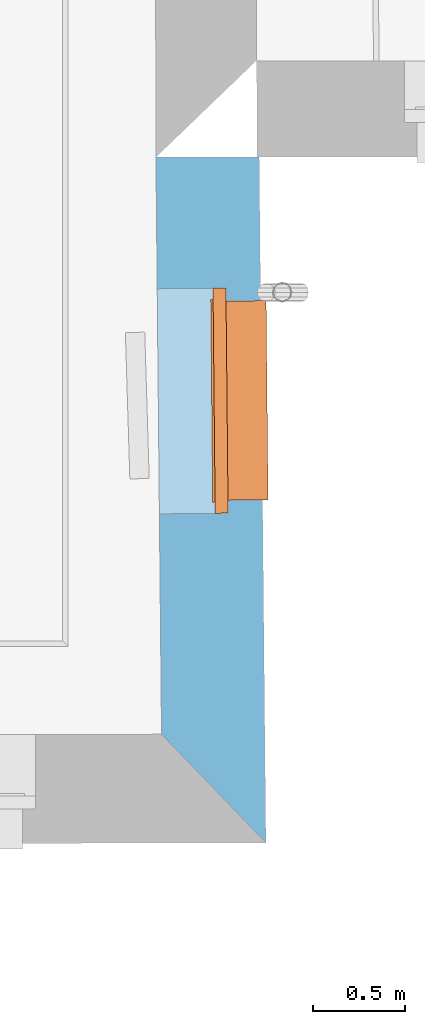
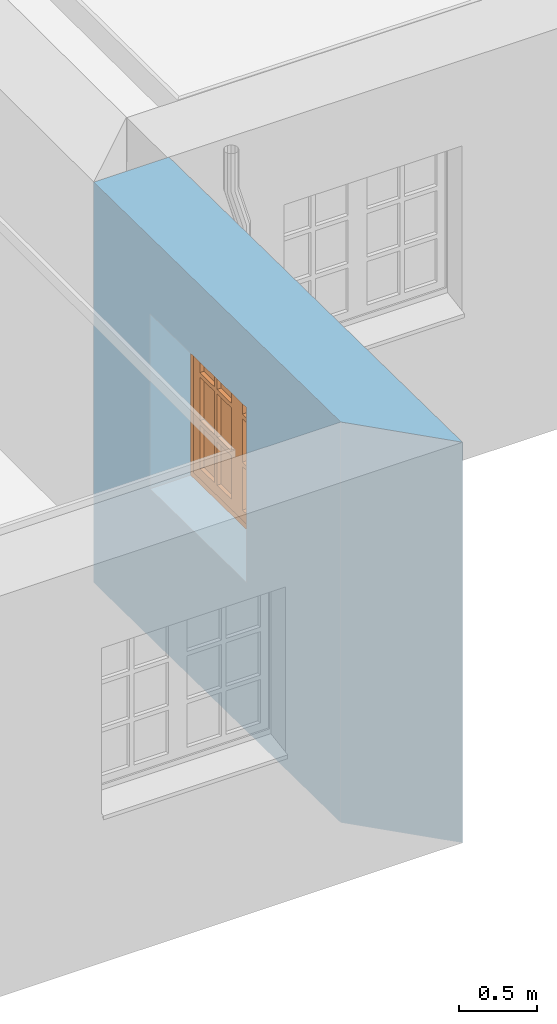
# One storey, part 71 of 196: 1 proxy, 1 opening, plus 1 element that does not belong to this part.
"""IFC2X3 building model written with IfcOpenShell, lengths in metres."""

from ifc_helpers import new_model, entity, si_unit, converted_unit, derived_unit, money_unit, direction, frame, origin_with_axes, origin_2d_with_axis, place, context, subcontext, project, spatial, polyline, rectangle, outline, extrude, open_shell, faceted_brep, surface_model, material, layer, layer_set, layer_usage, type_object, element, fill, save


model = new_model("IFC2X3")

# Units and contexts
model_context = context("Model", 3, precision=1e-05, world=origin_with_axes(), true_north=direction((0.0, 1.0)))
body_context = subcontext(model_context, "Body", "Model", "MODEL_VIEW")
ifc_project = project(units=[si_unit("LENGTHUNIT", "METRE"), si_unit("AREAUNIT", "SQUARE_METRE"), si_unit("VOLUMEUNIT", "CUBIC_METRE"), converted_unit("PLANEANGLEUNIT", "DEGREE", entity("IfcPlaneAngleMeasure", 0.0174532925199), si_unit("PLANEANGLEUNIT", "RADIAN"), dimensions=[0, 0, 0, 0, 0, 0, 0]), money_unit("EUR"), converted_unit("TIMEUNIT", "Year", entity("IfcTimeMeasure", 31556926.0), si_unit("TIMEUNIT", "SECOND"), dimensions=[0, 0, 1, 0, 0, 0, 0]), si_unit("MASSUNIT", "GRAM", prefix="KILO"), si_unit("THERMODYNAMICTEMPERATUREUNIT", "DEGREE_CELSIUS"), si_unit("LUMINOUSINTENSITYUNIT", "LUMEN"), si_unit("ENERGYUNIT", "JOULE", prefix="MEGA"), derived_unit("THERMALCONDUCTANCEUNIT", [(si_unit("POWERUNIT", "WATT"), 1), (si_unit("LENGTHUNIT", "METRE"), -1), (si_unit("THERMODYNAMICTEMPERATUREUNIT", "KELVIN"), -1)]), derived_unit("SPECIFICHEATCAPACITYUNIT", [(si_unit("ENERGYUNIT", "JOULE"), 1), (si_unit("MASSUNIT", "GRAM", prefix="KILO"), -1), (si_unit("THERMODYNAMICTEMPERATUREUNIT", "KELVIN"), -1)]), derived_unit("MASSDENSITYUNIT", [(si_unit("MASSUNIT", "GRAM", prefix="KILO"), 1), (si_unit("VOLUMEUNIT", "CUBIC_METRE"), -1)])], contexts=[model_context])

# Site, building, storey
site_placement = place(None, origin_with_axes())
site = spatial("IfcSite", under=ifc_project, at=site_placement, Name="Gelände", CompositionType="ELEMENT")
building_placement = place(site_placement, origin_with_axes())
building = spatial("IfcBuilding", under=site, at=building_placement, Name="Gebäude", CompositionType="ELEMENT")
storey_placement = place(building_placement, frame((0.0, 0.0, -3.0), z_axis=(0.0, 0.0, 1.0), x_axis=(1.0, 0.0, 0.0)))
storey = spatial("IfcBuildingStorey", under=building, at=storey_placement, Name="KELLERGESCHOSS", CompositionType="ELEMENT", Elevation=-3.0)

# Wall, opening, proxy
ifc_material = material(Name="05_ALLGEMEIN - TRAGENDE BAUTEILE")
ifc_layer = layer(ifc_material, 0.56, ventilated="UNKNOWN")
ifc_layer_set = layer_set([ifc_layer], Name="05_ALLGEMEIN - TRAGENDE BAUTEILE 0.56")
ifc_layer_usage = layer_usage(ifc_layer_set, "AXIS2", "NEGATIVE", 0.56)
wall_type = type_object("IfcWallType", Name="05_ALLGEMEIN - TRAGENDE BAUTEILE 560", PredefinedType="ELEMENTEDWALL")
wall_placement = place(storey_placement, frame((-17.6997063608, 6.22219965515, -0.36), z_axis=(0.0, 0.0, 1.0), x_axis=(-0.00971979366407, 0.99995276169, 0.0)))
wall = element("IfcWallStandardCase", 1, at=wall_placement, inside=storey, type_object=wall_type, material=ifc_layer_usage, Name="Wand-029", ObjectType="ELEMENTEDWALL", context=body_context, shape_type="SweptSolid", body=[
    extrude(outline(polyline([(0.0, 0.0), (3.71695293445, 0.0), (3.72235412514, 0.56), (0.59426893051, 0.56), (0.0, 0.0)])), origin_with_axes(), (0.0, 0.0, 1.0), 3.15),
])
opening_placement = place(wall_placement, frame((2.3988384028, 0.0, 1.16872266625), z_axis=(0.0, 0.0, 1.0), x_axis=(1.0, 0.0, 0.0)))
opening = element("IfcOpeningElement", 2, at=opening_placement, cuts=wall, Name="Fenster-014", context=body_context, shape_type="SweptSolid", body=[
    extrude(rectangle(XDim=1.22, YDim=1.37626033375, at=origin_2d_with_axis()), frame((0.0, 0.187384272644, 0.688130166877), z_axis=(0.0, -1.0, 0.0), x_axis=(1.0, 0.0, 0.0)), (0.0, 0.0, -1.0), 0.932615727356),
    extrude(rectangle(XDim=1.08, YDim=1.30626033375, at=origin_2d_with_axis()), frame((0.0, 0.187384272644, 0.653130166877), z_axis=(0.0, 1.0, 0.0), x_axis=(1.0, 0.0, 0.0)), (0.0, 0.0, -1.0), 0.747384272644),
])
building_element_proxy_type = type_object("IfcBuildingElementProxyType", Name="2-Flügelfenster 25", PredefinedType="NOTDEFINED")
proxy_placement = place(opening_placement, frame((-0.61, 0.0, 0.0), z_axis=(0.0, 0.0, 1.0), x_axis=(1.0, 0.0, 0.0)))
proxy = element("IfcBuildingElementProxy", 3, at=proxy_placement, inside=storey, type_object=building_element_proxy_type, Name="Fenster-014", context=body_context, shape_type="SurfaceModel", body=[
    surface_model("IfcShellBasedSurfaceModel", [(0.07, 0.186384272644, 0.05), (0.07, 0.186384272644, 0.04), (1.15, 0.186384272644, 0.04), (1.15, 0.186384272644, 0.05), (0.07, -0.03, 0.00519703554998), (1.15, -0.03, 0.00519703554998), (0.07, -0.03, -0.02480296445), (1.15, -0.03, -0.02480296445), (0.07, -0.015, -0.00980296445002), (1.15, -0.015, -0.00980296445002)], [open_shell([[[0, 1, 2, 3]], [[1, 4, 5, 2]], [[4, 6, 7, 5]], [[6, 8, 9, 7]]])]),
    faceted_brep([(0.07, 0.187384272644, 0.0389871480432), (0.07, 0.0, 0.00884850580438), (1.15, 0.0, 0.00884850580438), (1.15, 0.187384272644, 0.0389871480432), (0.07, 0.187384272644, 0.0), (0.07, 0.0, 0.0), (1.15, 0.0, 0.0), (1.15, 0.187384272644, 0.0)], [[[0, 1, 2, 3]], [[0, 4, 5, 1]], [[1, 5, 6, 2]], [[3, 2, 6, 7]], [[4, 0, 3, 7]], [[5, 4, 7, 6]]]),
    faceted_brep([(0.0, 0.187384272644, 0.0), (0.0, 0.257384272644, 0.0), (0.08, 0.257384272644, 0.08), (0.08, 0.187384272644, 0.08), (0.0, 0.187384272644, 1.37626033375), (0.0, 0.257384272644, 1.37626033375), (0.08, 0.257384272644, 1.29626033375), (0.08, 0.187384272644, 1.29626033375)], [[[0, 1, 2, 3]], [[4, 5, 1, 0]], [[1, 5, 6, 2]], [[3, 2, 6, 7]], [[0, 3, 7, 4]], [[7, 6, 5, 4]]]),
    faceted_brep([(1.22, 0.187384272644, 0.0), (1.22, 0.257384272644, 0.0), (1.22, 0.257384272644, 1.37626033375), (1.22, 0.187384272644, 1.37626033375), (1.14, 0.187384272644, 0.08), (1.14, 0.257384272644, 0.08), (1.14, 0.257384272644, 1.29626033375), (1.14, 0.187384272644, 1.29626033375)], [[[0, 1, 2, 3]], [[4, 5, 1, 0]], [[1, 5, 6, 2]], [[3, 2, 6, 7]], [[0, 3, 7, 4]], [[7, 6, 5, 4]]]),
    faceted_brep([(0.0, 0.187384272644, 0.0), (0.0, 0.257384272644, 0.0), (1.22, 0.257384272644, 0.0), (1.22, 0.187384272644, 0.0), (0.08, 0.187384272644, 0.08), (0.08, 0.257384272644, 0.08), (0.61, 0.257384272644, 0.08), (1.14, 0.257384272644, 0.08), (1.14, 0.187384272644, 0.08), (0.61, 0.187384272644, 0.08)], [[[0, 1, 2, 3]], [[4, 5, 1, 0]], [[1, 5, 6, 7, 2]], [[3, 2, 7, 8]], [[0, 3, 8, 9, 4]], [[9, 6, 5, 4]], [[8, 7, 6, 9]]]),
    faceted_brep([(0.0, 0.187384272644, 1.37626033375), (0.0, 0.257384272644, 1.37626033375), (0.08, 0.257384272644, 1.29626033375), (0.08, 0.187384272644, 1.29626033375), (1.22, 0.187384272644, 1.37626033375), (1.22, 0.257384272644, 1.37626033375), (1.14, 0.257384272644, 1.29626033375), (0.61, 0.257384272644, 1.29626033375), (0.61, 0.187384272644, 1.29626033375), (1.14, 0.187384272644, 1.29626033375)], [[[0, 1, 2, 3]], [[4, 5, 1, 0]], [[1, 5, 6, 7, 2]], [[3, 2, 7, 8]], [[0, 3, 8, 9, 4]], [[9, 6, 5, 4]], [[8, 7, 6, 9]]]),
    faceted_brep([(0.06, 0.257384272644, 0.06), (0.06, 0.270384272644, 0.06), (0.14, 0.270384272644, 0.14), (0.14, 0.257384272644, 0.14), (0.06, 0.257384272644, 1.31626033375), (0.06, 0.270384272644, 1.31626033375), (0.14, 0.270384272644, 1.23626033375), (0.14, 0.257384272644, 1.23626033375)], [[[0, 1, 2, 3]], [[4, 5, 1, 0]], [[1, 5, 6, 2]], [[3, 2, 6, 7]], [[0, 3, 7, 4]], [[7, 6, 5, 4]]]),
    faceted_brep([(0.6, 0.257384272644, 0.06), (0.6, 0.270384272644, 0.06), (0.6, 0.270384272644, 1.31626033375), (0.6, 0.257384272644, 1.31626033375), (0.54, 0.257384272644, 0.14), (0.54, 0.270384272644, 0.14), (0.54, 0.270384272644, 1.23626033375), (0.54, 0.257384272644, 1.23626033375)], [[[0, 1, 2, 3]], [[4, 5, 1, 0]], [[1, 5, 6, 2]], [[3, 2, 6, 7]], [[0, 3, 7, 4]], [[7, 6, 5, 4]]]),
    faceted_brep([(0.06, 0.257384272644, 0.06), (0.06, 0.270384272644, 0.06), (0.6, 0.270384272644, 0.06), (0.6, 0.257384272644, 0.06), (0.14, 0.257384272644, 0.14), (0.14, 0.270384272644, 0.14), (0.54, 0.270384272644, 0.14), (0.54, 0.257384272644, 0.14)], [[[0, 1, 2, 3]], [[4, 5, 1, 0]], [[1, 5, 6, 2]], [[3, 2, 6, 7]], [[0, 3, 7, 4]], [[7, 6, 5, 4]]]),
    faceted_brep([(0.06, 0.257384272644, 1.31626033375), (0.06, 0.270384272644, 1.31626033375), (0.14, 0.270384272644, 1.23626033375), (0.14, 0.257384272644, 1.23626033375), (0.6, 0.257384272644, 1.31626033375), (0.6, 0.270384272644, 1.31626033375), (0.54, 0.270384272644, 1.23626033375), (0.54, 0.257384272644, 1.23626033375)], [[[0, 1, 2, 3]], [[4, 5, 1, 0]], [[1, 5, 6, 2]], [[3, 2, 6, 7]], [[0, 3, 7, 4]], [[7, 6, 5, 4]]]),
    faceted_brep([(0.08, 0.200384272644, 0.08), (0.08, 0.257384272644, 0.08), (0.14, 0.257384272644, 0.14), (0.14, 0.200384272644, 0.14), (0.08, 0.200384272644, 1.29626033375), (0.08, 0.257384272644, 1.29626033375), (0.14, 0.257384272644, 1.23626033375), (0.14, 0.200384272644, 1.23626033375)], [[[0, 1, 2, 3]], [[4, 5, 1, 0]], [[1, 5, 6, 2]], [[3, 2, 6, 7]], [[0, 3, 7, 4]], [[7, 6, 5, 4]]]),
    faceted_brep([(0.62, 0.200384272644, 0.08), (0.62, 0.257384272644, 0.08), (0.62, 0.257384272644, 1.29626033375), (0.62, 0.200384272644, 1.29626033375), (0.54, 0.200384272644, 0.14), (0.54, 0.257384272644, 0.14), (0.54, 0.257384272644, 1.23626033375), (0.54, 0.200384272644, 1.23626033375)], [[[0, 1, 2, 3]], [[4, 5, 1, 0]], [[1, 5, 6, 2]], [[3, 2, 6, 7]], [[0, 3, 7, 4]], [[7, 6, 5, 4]]]),
    faceted_brep([(0.08, 0.200384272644, 0.08), (0.08, 0.257384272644, 0.08), (0.62, 0.257384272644, 0.08), (0.62, 0.200384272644, 0.08), (0.14, 0.200384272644, 0.14), (0.14, 0.257384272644, 0.14), (0.54, 0.257384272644, 0.14), (0.54, 0.200384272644, 0.14)], [[[0, 1, 2, 3]], [[4, 5, 1, 0]], [[1, 5, 6, 2]], [[3, 2, 6, 7]], [[0, 3, 7, 4]], [[7, 6, 5, 4]]]),
    faceted_brep([(0.08, 0.200384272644, 1.29626033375), (0.08, 0.257384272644, 1.29626033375), (0.14, 0.257384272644, 1.23626033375), (0.14, 0.200384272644, 1.23626033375), (0.62, 0.200384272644, 1.29626033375), (0.62, 0.257384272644, 1.29626033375), (0.54, 0.257384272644, 1.23626033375), (0.54, 0.200384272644, 1.23626033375)], [[[0, 1, 2, 3]], [[4, 5, 1, 0]], [[1, 5, 6, 2]], [[3, 2, 6, 7]], [[0, 3, 7, 4]], [[7, 6, 5, 4]]]),
    faceted_brep([(0.3225, 0.200384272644, 0.14), (0.3225, 0.235384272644, 0.14), (0.3575, 0.235384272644, 0.14), (0.3575, 0.200384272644, 0.14), (0.3225, 0.200384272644, 1.23626033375), (0.3225, 0.235384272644, 1.23626033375), (0.3575, 0.235384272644, 1.23626033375), (0.3575, 0.200384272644, 1.23626033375)], [[[0, 1, 2, 3]], [[4, 5, 1, 0]], [[1, 5, 6, 2]], [[3, 2, 6, 7]], [[0, 3, 7, 4]], [[7, 6, 5, 4]]]),
    faceted_brep([(0.3225, 0.235384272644, 0.14), (0.3225, 0.270384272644, 0.14), (0.3575, 0.270384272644, 0.14), (0.3575, 0.235384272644, 0.14), (0.3225, 0.235384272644, 1.23626033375), (0.3225, 0.270384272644, 1.23626033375), (0.3575, 0.270384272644, 1.23626033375), (0.3575, 0.235384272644, 1.23626033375)], [[[0, 1, 2, 3]], [[4, 5, 1, 0]], [[1, 5, 6, 2]], [[3, 2, 6, 7]], [[0, 3, 7, 4]], [[7, 6, 5, 4]]]),
    faceted_brep([(0.3225, 0.200384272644, 0.482086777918), (0.3225, 0.200384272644, 0.517086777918), (0.14, 0.200384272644, 0.517086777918), (0.14, 0.200384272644, 0.482086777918), (0.3225, 0.235384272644, 0.517086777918), (0.3225, 0.235384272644, 0.482086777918), (0.14, 0.235384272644, 0.517086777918), (0.14, 0.235384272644, 0.482086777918)], [[[0, 1, 2, 3]], [[4, 1, 0, 5]], [[1, 4, 6, 2]], [[6, 7, 3, 2]], [[5, 0, 3, 7]], [[4, 5, 7, 6]]]),
    faceted_brep([(0.3575, 0.235384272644, 0.517086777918), (0.3575, 0.200384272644, 0.517086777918), (0.54, 0.200384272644, 0.517086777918), (0.54, 0.235384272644, 0.517086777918), (0.3575, 0.200384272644, 0.482086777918), (0.3575, 0.235384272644, 0.482086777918), (0.54, 0.200384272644, 0.482086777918), (0.54, 0.235384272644, 0.482086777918)], [[[0, 1, 2, 3]], [[4, 1, 0, 5]], [[1, 4, 6, 2]], [[7, 3, 2, 6]], [[5, 0, 3, 7]], [[4, 5, 7, 6]]]),
    faceted_brep([(0.3225, 0.235384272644, 0.482086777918), (0.3225, 0.235384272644, 0.517086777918), (0.14, 0.235384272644, 0.517086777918), (0.14, 0.235384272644, 0.482086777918), (0.3225, 0.270384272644, 0.517086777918), (0.3225, 0.270384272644, 0.482086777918), (0.14, 0.270384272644, 0.517086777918), (0.14, 0.270384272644, 0.482086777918)], [[[0, 1, 2, 3]], [[4, 1, 0, 5]], [[1, 4, 6, 2]], [[6, 7, 3, 2]], [[5, 0, 3, 7]], [[4, 5, 7, 6]]]),
    faceted_brep([(0.3575, 0.270384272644, 0.517086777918), (0.3575, 0.235384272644, 0.517086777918), (0.54, 0.235384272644, 0.517086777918), (0.54, 0.270384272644, 0.517086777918), (0.3575, 0.235384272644, 0.482086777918), (0.3575, 0.270384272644, 0.482086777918), (0.54, 0.235384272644, 0.482086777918), (0.54, 0.270384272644, 0.482086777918)], [[[0, 1, 2, 3]], [[4, 1, 0, 5]], [[1, 4, 6, 2]], [[7, 3, 2, 6]], [[5, 0, 3, 7]], [[4, 5, 7, 6]]]),
    faceted_brep([(0.3225, 0.200384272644, 0.859173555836), (0.3225, 0.200384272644, 0.894173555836), (0.14, 0.200384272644, 0.894173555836), (0.14, 0.200384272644, 0.859173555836), (0.3225, 0.235384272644, 0.894173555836), (0.3225, 0.235384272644, 0.859173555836), (0.14, 0.235384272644, 0.894173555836), (0.14, 0.235384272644, 0.859173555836)], [[[0, 1, 2, 3]], [[4, 1, 0, 5]], [[1, 4, 6, 2]], [[6, 7, 3, 2]], [[5, 0, 3, 7]], [[4, 5, 7, 6]]]),
    faceted_brep([(0.3575, 0.235384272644, 0.894173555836), (0.3575, 0.200384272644, 0.894173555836), (0.54, 0.200384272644, 0.894173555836), (0.54, 0.235384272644, 0.894173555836), (0.3575, 0.200384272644, 0.859173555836), (0.3575, 0.235384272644, 0.859173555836), (0.54, 0.200384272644, 0.859173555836), (0.54, 0.235384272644, 0.859173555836)], [[[0, 1, 2, 3]], [[4, 1, 0, 5]], [[1, 4, 6, 2]], [[7, 3, 2, 6]], [[5, 0, 3, 7]], [[4, 5, 7, 6]]]),
    faceted_brep([(0.3225, 0.235384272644, 0.859173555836), (0.3225, 0.235384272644, 0.894173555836), (0.14, 0.235384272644, 0.894173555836), (0.14, 0.235384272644, 0.859173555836), (0.3225, 0.270384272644, 0.894173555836), (0.3225, 0.270384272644, 0.859173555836), (0.14, 0.270384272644, 0.894173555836), (0.14, 0.270384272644, 0.859173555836)], [[[0, 1, 2, 3]], [[4, 1, 0, 5]], [[1, 4, 6, 2]], [[6, 7, 3, 2]], [[5, 0, 3, 7]], [[4, 5, 7, 6]]]),
    faceted_brep([(0.3575, 0.270384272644, 0.894173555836), (0.3575, 0.235384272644, 0.894173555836), (0.54, 0.235384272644, 0.894173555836), (0.54, 0.270384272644, 0.894173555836), (0.3575, 0.235384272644, 0.859173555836), (0.3575, 0.270384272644, 0.859173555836), (0.54, 0.235384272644, 0.859173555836), (0.54, 0.270384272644, 0.859173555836)], [[[0, 1, 2, 3]], [[4, 1, 0, 5]], [[1, 4, 6, 2]], [[7, 3, 2, 6]], [[5, 0, 3, 7]], [[4, 5, 7, 6]]]),
    faceted_brep([(0.3225, 0.240384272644, 0.859173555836), (0.3225, 0.230384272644, 0.859173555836), (0.3225, 0.230384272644, 0.517086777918), (0.3225, 0.240384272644, 0.517086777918), (0.14, 0.230384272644, 0.859173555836), (0.14, 0.240384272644, 0.859173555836), (0.14, 0.230384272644, 0.517086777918), (0.14, 0.240384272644, 0.517086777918)], [[[0, 1, 2, 3]], [[4, 1, 0, 5]], [[1, 4, 6, 2]], [[2, 6, 7, 3]], [[5, 0, 3, 7]], [[4, 5, 7, 6]]]),
    faceted_brep([(0.54, 0.230384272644, 0.14), (0.54, 0.240384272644, 0.14), (0.54, 0.240384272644, 0.482086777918), (0.54, 0.230384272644, 0.482086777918), (0.3575, 0.230384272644, 0.14), (0.3575, 0.240384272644, 0.14), (0.3575, 0.240384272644, 0.482086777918), (0.3575, 0.230384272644, 0.482086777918)], [[[0, 1, 2, 3]], [[0, 4, 5, 1]], [[1, 5, 6, 2]], [[2, 6, 7, 3]], [[4, 0, 3, 7]], [[5, 4, 7, 6]]]),
    faceted_brep([(0.3225, 0.230384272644, 0.14), (0.3225, 0.240384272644, 0.14), (0.3225, 0.240384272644, 0.482086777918), (0.3225, 0.230384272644, 0.482086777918), (0.14, 0.240384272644, 0.14), (0.14, 0.230384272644, 0.14), (0.14, 0.240384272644, 0.482086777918), (0.14, 0.230384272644, 0.482086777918)], [[[0, 1, 2, 3]], [[4, 1, 0, 5]], [[1, 4, 6, 2]], [[2, 6, 7, 3]], [[5, 0, 3, 7]], [[4, 5, 7, 6]]]),
    faceted_brep([(0.54, 0.240384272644, 0.859173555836), (0.54, 0.230384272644, 0.859173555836), (0.54, 0.230384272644, 0.517086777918), (0.54, 0.240384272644, 0.517086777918), (0.3575, 0.230384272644, 0.859173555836), (0.3575, 0.240384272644, 0.859173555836), (0.3575, 0.230384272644, 0.517086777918), (0.3575, 0.240384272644, 0.517086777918)], [[[0, 1, 2, 3]], [[4, 1, 0, 5]], [[1, 4, 6, 2]], [[2, 6, 7, 3]], [[5, 0, 3, 7]], [[4, 5, 7, 6]]]),
    faceted_brep([(0.14, 0.230384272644, 0.894173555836), (0.3225, 0.230384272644, 0.894173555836), (0.3225, 0.230384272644, 1.23626033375), (0.14, 0.230384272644, 1.23626033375), (0.3225, 0.240384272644, 0.894173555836), (0.14, 0.240384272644, 0.894173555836), (0.3225, 0.240384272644, 1.23626033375), (0.14, 0.240384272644, 1.23626033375)], [[[0, 1, 2, 3]], [[4, 1, 0, 5]], [[1, 4, 6, 2]], [[7, 3, 2, 6]], [[5, 0, 3, 7]], [[4, 5, 7, 6]]]),
    faceted_brep([(0.3575, 0.230384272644, 0.894173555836), (0.54, 0.230384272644, 0.894173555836), (0.54, 0.230384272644, 1.23626033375), (0.3575, 0.230384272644, 1.23626033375), (0.54, 0.240384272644, 0.894173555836), (0.3575, 0.240384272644, 0.894173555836), (0.54, 0.240384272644, 1.23626033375), (0.3575, 0.240384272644, 1.23626033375)], [[[0, 1, 2, 3]], [[4, 1, 0, 5]], [[1, 4, 6, 2]], [[2, 6, 7, 3]], [[5, 0, 3, 7]], [[4, 5, 7, 6]]]),
    faceted_brep([(0.6, 0.257384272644, 0.06), (0.6, 0.270384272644, 0.06), (0.68, 0.270384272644, 0.14), (0.68, 0.257384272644, 0.14), (0.6, 0.257384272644, 1.31626033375), (0.6, 0.270384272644, 1.31626033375), (0.68, 0.270384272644, 1.23626033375), (0.68, 0.257384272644, 1.23626033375)], [[[0, 1, 2, 3]], [[4, 5, 1, 0]], [[1, 5, 6, 2]], [[3, 2, 6, 7]], [[0, 3, 7, 4]], [[7, 6, 5, 4]]]),
    faceted_brep([(1.16, 0.257384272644, 0.06), (1.08, 0.257384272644, 0.14), (1.08, 0.270384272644, 0.14), (1.16, 0.270384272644, 0.06), (1.16, 0.257384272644, 1.31626033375), (1.08, 0.257384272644, 1.23626033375), (1.08, 0.270384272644, 1.23626033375), (1.16, 0.270384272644, 1.31626033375)], [[[0, 1, 2, 3]], [[0, 4, 5, 1]], [[1, 5, 6, 2]], [[3, 2, 6, 7]], [[4, 0, 3, 7]], [[5, 4, 7, 6]]]),
    faceted_brep([(0.6, 0.257384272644, 0.06), (0.6, 0.270384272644, 0.06), (1.16, 0.270384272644, 0.06), (1.16, 0.257384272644, 0.06), (0.68, 0.257384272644, 0.14), (0.68, 0.270384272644, 0.14), (1.08, 0.270384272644, 0.14), (1.08, 0.257384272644, 0.14)], [[[0, 1, 2, 3]], [[4, 5, 1, 0]], [[1, 5, 6, 2]], [[3, 2, 6, 7]], [[0, 3, 7, 4]], [[7, 6, 5, 4]]]),
    faceted_brep([(0.6, 0.257384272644, 1.31626033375), (1.16, 0.257384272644, 1.31626033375), (1.16, 0.270384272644, 1.31626033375), (0.6, 0.270384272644, 1.31626033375), (0.68, 0.257384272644, 1.23626033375), (1.08, 0.257384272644, 1.23626033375), (1.08, 0.270384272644, 1.23626033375), (0.68, 0.270384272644, 1.23626033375)], [[[0, 1, 2, 3]], [[0, 4, 5, 1]], [[1, 5, 6, 2]], [[3, 2, 6, 7]], [[4, 0, 3, 7]], [[5, 4, 7, 6]]]),
    faceted_brep([(0.62, 0.200384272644, 0.08), (0.62, 0.257384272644, 0.08), (0.68, 0.257384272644, 0.14), (0.68, 0.200384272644, 0.14), (0.62, 0.200384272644, 1.29626033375), (0.62, 0.257384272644, 1.29626033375), (0.68, 0.257384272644, 1.23626033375), (0.68, 0.200384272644, 1.23626033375)], [[[0, 1, 2, 3]], [[4, 5, 1, 0]], [[1, 5, 6, 2]], [[3, 2, 6, 7]], [[0, 3, 7, 4]], [[7, 6, 5, 4]]]),
    faceted_brep([(1.14, 0.200384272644, 0.08), (1.08, 0.200384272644, 0.14), (1.08, 0.257384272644, 0.14), (1.14, 0.257384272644, 0.08), (1.14, 0.200384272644, 1.29626033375), (1.08, 0.200384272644, 1.23626033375), (1.08, 0.257384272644, 1.23626033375), (1.14, 0.257384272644, 1.29626033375)], [[[0, 1, 2, 3]], [[0, 4, 5, 1]], [[1, 5, 6, 2]], [[3, 2, 6, 7]], [[4, 0, 3, 7]], [[5, 4, 7, 6]]]),
    faceted_brep([(0.62, 0.200384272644, 0.08), (0.62, 0.257384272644, 0.08), (1.14, 0.257384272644, 0.08), (1.14, 0.200384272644, 0.08), (0.68, 0.200384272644, 0.14), (0.68, 0.257384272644, 0.14), (1.08, 0.257384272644, 0.14), (1.08, 0.200384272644, 0.14)], [[[0, 1, 2, 3]], [[4, 5, 1, 0]], [[1, 5, 6, 2]], [[3, 2, 6, 7]], [[0, 3, 7, 4]], [[7, 6, 5, 4]]]),
    faceted_brep([(0.62, 0.200384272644, 1.29626033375), (1.14, 0.200384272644, 1.29626033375), (1.14, 0.257384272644, 1.29626033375), (0.62, 0.257384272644, 1.29626033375), (0.68, 0.200384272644, 1.23626033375), (1.08, 0.200384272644, 1.23626033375), (1.08, 0.257384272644, 1.23626033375), (0.68, 0.257384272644, 1.23626033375)], [[[0, 1, 2, 3]], [[0, 4, 5, 1]], [[1, 5, 6, 2]], [[3, 2, 6, 7]], [[4, 0, 3, 7]], [[5, 4, 7, 6]]]),
    faceted_brep([(0.8625, 0.200384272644, 0.14), (0.8625, 0.235384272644, 0.14), (0.8975, 0.235384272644, 0.14), (0.8975, 0.200384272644, 0.14), (0.8625, 0.200384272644, 1.23626033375), (0.8625, 0.235384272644, 1.23626033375), (0.8975, 0.235384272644, 1.23626033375), (0.8975, 0.200384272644, 1.23626033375)], [[[0, 1, 2, 3]], [[4, 5, 1, 0]], [[1, 5, 6, 2]], [[3, 2, 6, 7]], [[0, 3, 7, 4]], [[7, 6, 5, 4]]]),
    faceted_brep([(0.8625, 0.235384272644, 0.14), (0.8625, 0.270384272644, 0.14), (0.8975, 0.270384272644, 0.14), (0.8975, 0.235384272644, 0.14), (0.8625, 0.235384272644, 1.23626033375), (0.8625, 0.270384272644, 1.23626033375), (0.8975, 0.270384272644, 1.23626033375), (0.8975, 0.235384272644, 1.23626033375)], [[[0, 1, 2, 3]], [[4, 5, 1, 0]], [[1, 5, 6, 2]], [[3, 2, 6, 7]], [[0, 3, 7, 4]], [[7, 6, 5, 4]]]),
    faceted_brep([(0.8625, 0.200384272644, 0.482086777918), (0.8625, 0.200384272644, 0.517086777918), (0.68, 0.200384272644, 0.517086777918), (0.68, 0.200384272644, 0.482086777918), (0.8625, 0.235384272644, 0.517086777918), (0.8625, 0.235384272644, 0.482086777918), (0.68, 0.235384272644, 0.517086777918), (0.68, 0.235384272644, 0.482086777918)], [[[0, 1, 2, 3]], [[4, 1, 0, 5]], [[1, 4, 6, 2]], [[6, 7, 3, 2]], [[5, 0, 3, 7]], [[4, 5, 7, 6]]]),
    faceted_brep([(0.8975, 0.235384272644, 0.517086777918), (0.8975, 0.200384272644, 0.517086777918), (1.08, 0.200384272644, 0.517086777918), (1.08, 0.235384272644, 0.517086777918), (0.8975, 0.200384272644, 0.482086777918), (0.8975, 0.235384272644, 0.482086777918), (1.08, 0.200384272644, 0.482086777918), (1.08, 0.235384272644, 0.482086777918)], [[[0, 1, 2, 3]], [[4, 1, 0, 5]], [[1, 4, 6, 2]], [[7, 3, 2, 6]], [[5, 0, 3, 7]], [[4, 5, 7, 6]]]),
    faceted_brep([(0.8625, 0.235384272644, 0.482086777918), (0.8625, 0.235384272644, 0.517086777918), (0.68, 0.235384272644, 0.517086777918), (0.68, 0.235384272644, 0.482086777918), (0.8625, 0.270384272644, 0.517086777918), (0.8625, 0.270384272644, 0.482086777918), (0.68, 0.270384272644, 0.517086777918), (0.68, 0.270384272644, 0.482086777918)], [[[0, 1, 2, 3]], [[4, 1, 0, 5]], [[1, 4, 6, 2]], [[6, 7, 3, 2]], [[5, 0, 3, 7]], [[4, 5, 7, 6]]]),
    faceted_brep([(0.8975, 0.270384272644, 0.517086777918), (0.8975, 0.235384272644, 0.517086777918), (1.08, 0.235384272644, 0.517086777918), (1.08, 0.270384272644, 0.517086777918), (0.8975, 0.235384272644, 0.482086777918), (0.8975, 0.270384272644, 0.482086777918), (1.08, 0.235384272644, 0.482086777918), (1.08, 0.270384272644, 0.482086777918)], [[[0, 1, 2, 3]], [[4, 1, 0, 5]], [[1, 4, 6, 2]], [[7, 3, 2, 6]], [[5, 0, 3, 7]], [[4, 5, 7, 6]]]),
    faceted_brep([(0.8625, 0.200384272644, 0.859173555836), (0.8625, 0.200384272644, 0.894173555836), (0.68, 0.200384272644, 0.894173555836), (0.68, 0.200384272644, 0.859173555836), (0.8625, 0.235384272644, 0.894173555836), (0.8625, 0.235384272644, 0.859173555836), (0.68, 0.235384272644, 0.894173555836), (0.68, 0.235384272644, 0.859173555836)], [[[0, 1, 2, 3]], [[4, 1, 0, 5]], [[1, 4, 6, 2]], [[6, 7, 3, 2]], [[5, 0, 3, 7]], [[4, 5, 7, 6]]]),
    faceted_brep([(0.8975, 0.235384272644, 0.894173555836), (0.8975, 0.200384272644, 0.894173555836), (1.08, 0.200384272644, 0.894173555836), (1.08, 0.235384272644, 0.894173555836), (0.8975, 0.200384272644, 0.859173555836), (0.8975, 0.235384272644, 0.859173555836), (1.08, 0.200384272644, 0.859173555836), (1.08, 0.235384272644, 0.859173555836)], [[[0, 1, 2, 3]], [[4, 1, 0, 5]], [[1, 4, 6, 2]], [[7, 3, 2, 6]], [[5, 0, 3, 7]], [[4, 5, 7, 6]]]),
    faceted_brep([(0.8625, 0.235384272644, 0.859173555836), (0.8625, 0.235384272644, 0.894173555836), (0.68, 0.235384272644, 0.894173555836), (0.68, 0.235384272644, 0.859173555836), (0.8625, 0.270384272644, 0.894173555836), (0.8625, 0.270384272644, 0.859173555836), (0.68, 0.270384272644, 0.894173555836), (0.68, 0.270384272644, 0.859173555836)], [[[0, 1, 2, 3]], [[4, 1, 0, 5]], [[1, 4, 6, 2]], [[6, 7, 3, 2]], [[5, 0, 3, 7]], [[4, 5, 7, 6]]]),
    faceted_brep([(0.8975, 0.270384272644, 0.894173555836), (0.8975, 0.235384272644, 0.894173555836), (1.08, 0.235384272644, 0.894173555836), (1.08, 0.270384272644, 0.894173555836), (0.8975, 0.235384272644, 0.859173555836), (0.8975, 0.270384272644, 0.859173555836), (1.08, 0.235384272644, 0.859173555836), (1.08, 0.270384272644, 0.859173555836)], [[[0, 1, 2, 3]], [[4, 1, 0, 5]], [[1, 4, 6, 2]], [[7, 3, 2, 6]], [[5, 0, 3, 7]], [[4, 5, 7, 6]]]),
    faceted_brep([(0.8625, 0.240384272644, 0.859173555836), (0.8625, 0.230384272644, 0.859173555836), (0.8625, 0.230384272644, 0.517086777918), (0.8625, 0.240384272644, 0.517086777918), (0.68, 0.230384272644, 0.859173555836), (0.68, 0.240384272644, 0.859173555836), (0.68, 0.230384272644, 0.517086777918), (0.68, 0.240384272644, 0.517086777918)], [[[0, 1, 2, 3]], [[4, 1, 0, 5]], [[1, 4, 6, 2]], [[2, 6, 7, 3]], [[5, 0, 3, 7]], [[4, 5, 7, 6]]]),
    faceted_brep([(1.08, 0.230384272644, 0.14), (1.08, 0.240384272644, 0.14), (1.08, 0.240384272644, 0.482086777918), (1.08, 0.230384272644, 0.482086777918), (0.8975, 0.230384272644, 0.14), (0.8975, 0.240384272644, 0.14), (0.8975, 0.240384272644, 0.482086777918), (0.8975, 0.230384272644, 0.482086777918)], [[[0, 1, 2, 3]], [[0, 4, 5, 1]], [[1, 5, 6, 2]], [[2, 6, 7, 3]], [[4, 0, 3, 7]], [[5, 4, 7, 6]]]),
    faceted_brep([(0.8625, 0.230384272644, 0.14), (0.8625, 0.240384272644, 0.14), (0.8625, 0.240384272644, 0.482086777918), (0.8625, 0.230384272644, 0.482086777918), (0.68, 0.240384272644, 0.14), (0.68, 0.230384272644, 0.14), (0.68, 0.240384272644, 0.482086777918), (0.68, 0.230384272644, 0.482086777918)], [[[0, 1, 2, 3]], [[4, 1, 0, 5]], [[1, 4, 6, 2]], [[2, 6, 7, 3]], [[5, 0, 3, 7]], [[4, 5, 7, 6]]]),
    faceted_brep([(1.08, 0.240384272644, 0.859173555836), (1.08, 0.230384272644, 0.859173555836), (1.08, 0.230384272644, 0.517086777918), (1.08, 0.240384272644, 0.517086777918), (0.8975, 0.230384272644, 0.859173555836), (0.8975, 0.240384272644, 0.859173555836), (0.8975, 0.230384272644, 0.517086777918), (0.8975, 0.240384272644, 0.517086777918)], [[[0, 1, 2, 3]], [[4, 1, 0, 5]], [[1, 4, 6, 2]], [[2, 6, 7, 3]], [[5, 0, 3, 7]], [[4, 5, 7, 6]]]),
    faceted_brep([(0.68, 0.230384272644, 0.894173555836), (0.8625, 0.230384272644, 0.894173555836), (0.8625, 0.230384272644, 1.23626033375), (0.68, 0.230384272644, 1.23626033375), (0.8625, 0.240384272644, 0.894173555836), (0.68, 0.240384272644, 0.894173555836), (0.8625, 0.240384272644, 1.23626033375), (0.68, 0.240384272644, 1.23626033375)], [[[0, 1, 2, 3]], [[4, 1, 0, 5]], [[1, 4, 6, 2]], [[7, 3, 2, 6]], [[5, 0, 3, 7]], [[4, 5, 7, 6]]]),
    faceted_brep([(0.8975, 0.230384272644, 0.894173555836), (1.08, 0.230384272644, 0.894173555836), (1.08, 0.230384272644, 1.23626033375), (0.8975, 0.230384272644, 1.23626033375), (1.08, 0.240384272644, 0.894173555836), (0.8975, 0.240384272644, 0.894173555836), (1.08, 0.240384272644, 1.23626033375), (0.8975, 0.240384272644, 1.23626033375)], [[[0, 1, 2, 3]], [[4, 1, 0, 5]], [[1, 4, 6, 2]], [[2, 6, 7, 3]], [[5, 0, 3, 7]], [[4, 5, 7, 6]]]),
])
fill(opening, proxy)

save(model, "model.ifc")
